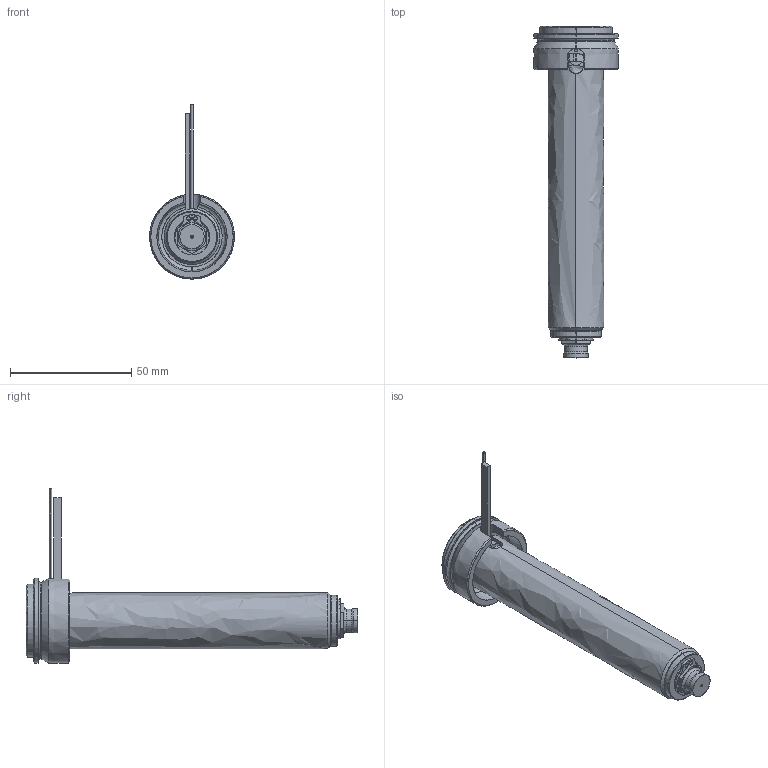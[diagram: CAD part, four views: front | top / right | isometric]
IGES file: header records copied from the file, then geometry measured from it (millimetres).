
Start section: SolidWorks IGES file using analytic representation for surfaces
Global section: file name: C:\Documents and Settings\ws-20\Desktop\TEM\UGEP3153-M-A-0 [Øf-0.30 P-0 ØC-7.0].IGS; native system: SolidWorks 2012; preprocessor: SolidWorks 2012; author: ws-20; date: 120404.082201; units: millimetre
Bounding box: 35 x 137 x 71.9 mm (x, y, z)
Surface area: 27386.6 mm2 (no closed solid volume)
Topology: 0 solids, 0 shells, 118 faces, 1732 edges, 1732 vertices
Faces by surface type: revolution 69, bspline 49
